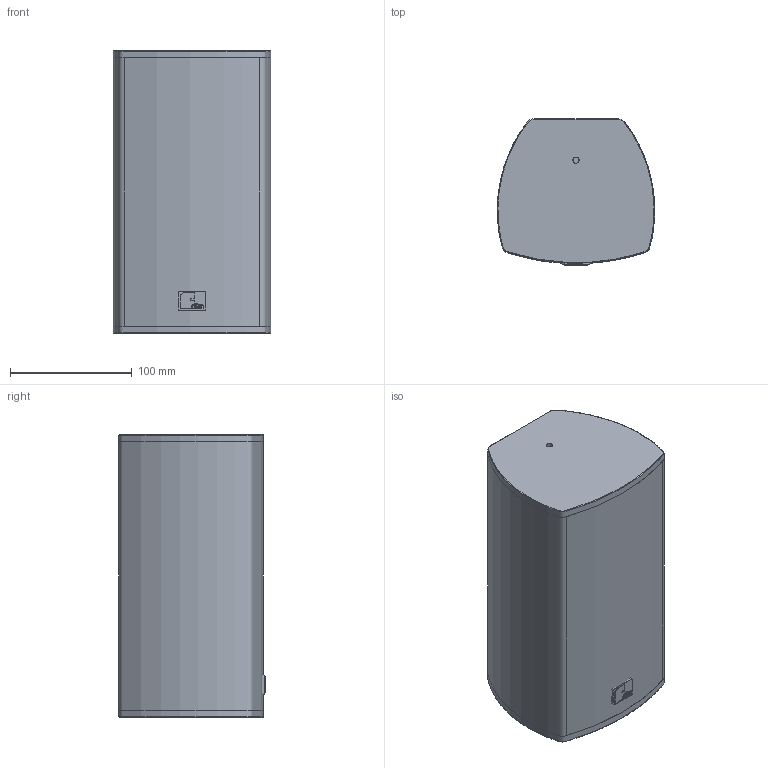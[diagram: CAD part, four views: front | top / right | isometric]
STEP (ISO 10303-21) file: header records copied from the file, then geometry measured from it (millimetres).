
FILE_DESCRIPTION(/* description */ (''),/* implementation_level */ '2;1');
FILE_NAME(/* name */ 'LX-20A~1',/* time_stamp */ '2018-07-26T18:12:41+02:00',/* author */ (''),/* organization */ (''),/* preprocessor_version */ 'ST-DEVELOPER v14',/* originating_system */ '',/* authorisation */ '');
FILE_SCHEMA (('AUTOMOTIVE_DESIGN'));
Length unit declared in the file: millimetre
Products named in the file (1): Document
Bounding box: 129.13 x 119.85 x 232 mm (x, y, z)
Surface area: 233432.8 mm2 (no closed solid volume)
Topology: 0 solids, 85 shells, 90 faces, 380 edges, 370 vertices
Faces by surface type: bspline 68, plane 22
Entity records: 5620 total; most frequent: CARTESIAN_POINT 3686, ORIENTED_EDGE 390, EDGE_CURVE 380, VERTEX_POINT 370, B_SPLINE_CURVE_WITH_KNOTS 150, EDGE_LOOP 96, ADVANCED_FACE 90, FACE_OUTER_BOUND 90
